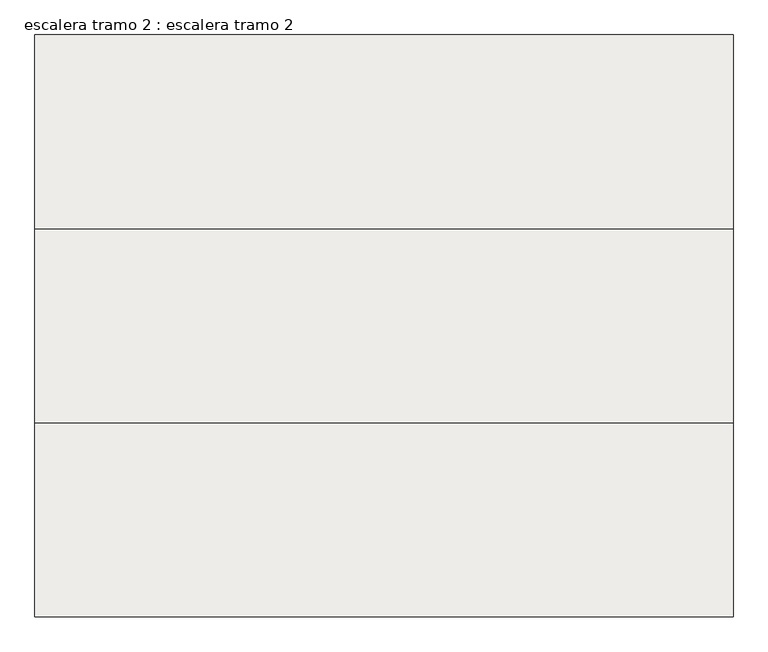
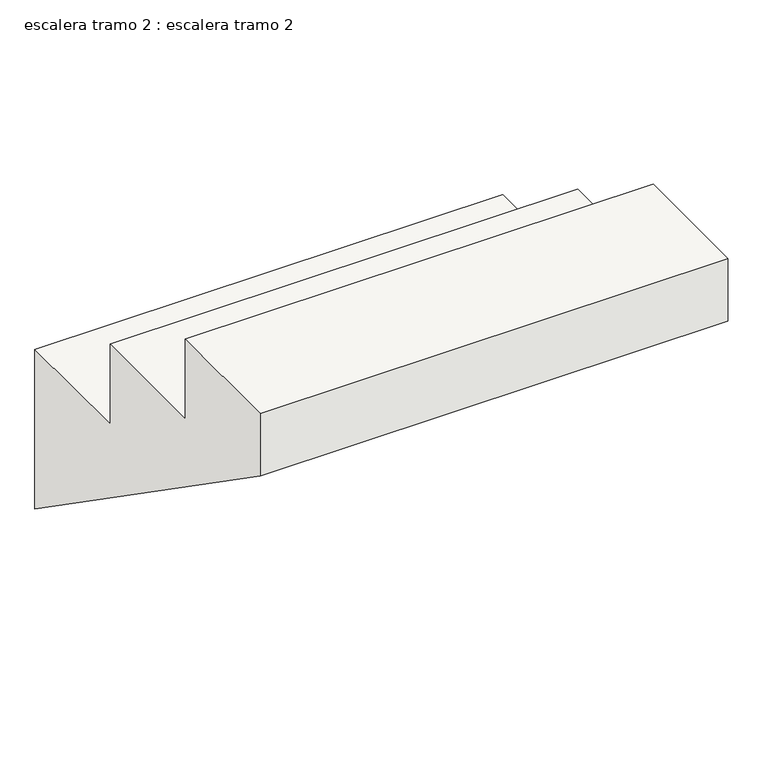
"""IFC4 building model written with IfcOpenShell, lengths in millimetres: slab geometry, escalera tramo 2 : escalera tramo 2."""

from ifc_helpers import new_model, si_unit, frame, origin, place, context, project, spatial, polyline, outline, extrude, source, transform, mapped, element, save


def escalera_tramo_2_escalera_tramo_2_fa0a149b(model_context):
    return source(origin(), model_context, "Body", "SweptSolid", [
        extrude(outline(polyline([(7644.0656057, 2975.0811641), (7644.0656057, 2605.0811641), (6790.0, 3199.3498377), (6790.0, 3345.0811641), (7074.0656057, 3345.0811641), (7074.0656057, 3160.0811641), (7359.0656057, 3160.0811641), (7359.0656057, 2975.0811641), (7644.0656057, 2975.0811641)])), frame((9215.0, 0.0, 0.0), z_axis=(1.0, 0.0, 0.0), x_axis=(0.0, 1.0, 0.0)), (0.0, 0.0, 1.0), 1025.0),
    ])


if __name__ == "__main__":
    model = new_model("IFC4")
    model_context = context("Model", 3, world=origin())
    ifc_project = project(units=[si_unit("LENGTHUNIT", "METRE", prefix="MILLI")], contexts=[model_context])
    site = spatial("IfcSite", under=ifc_project)
    building = spatial("IfcBuilding", under=site)
    placement = place(None, origin())
    escalera_tramo_2_escalera_tramo_2_shape = escalera_tramo_2_escalera_tramo_2_fa0a149b(model_context)
    element("IfcSlab", 1, ObjectType="escalera tramo 2 : escalera tramo 2", at=placement, inside=building, context=model_context, shape_type="MappedRepresentation", body=[
        mapped(escalera_tramo_2_escalera_tramo_2_shape, transform((0.0, 0.0, 0.0), x_axis=(1.0, 0.0, 0.0), y_axis=(0.0, 1.0, 0.0), z_axis=(0.0, 0.0, 1.0))),
    ])
    save(model, "model.ifc")
